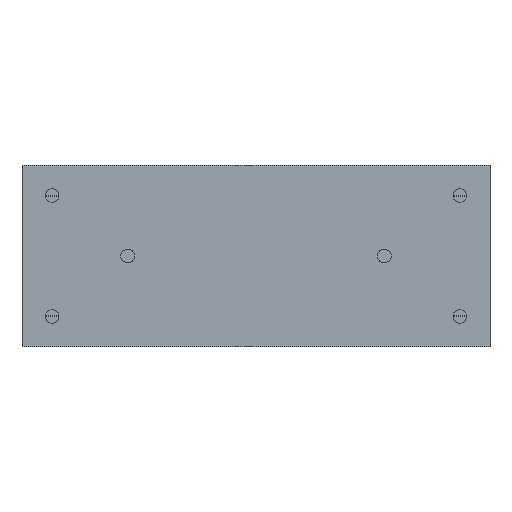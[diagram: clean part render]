
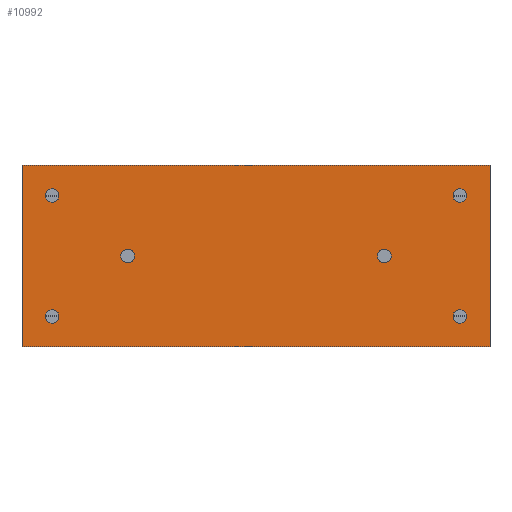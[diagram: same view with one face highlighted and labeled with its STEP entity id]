
A CAD part, front view. The second image highlights one B-rep face of the part: STEP entity #10992.
In plain terms, the highlighted planar face has unit normal (0, -1, 0).
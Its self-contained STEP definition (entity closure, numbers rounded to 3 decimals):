
#406=CIRCLE('',#11636,2.25);
#407=CIRCLE('',#11637,2.25);
#408=CIRCLE('',#11638,2.25);
#409=CIRCLE('',#11639,2.25);
#410=CIRCLE('',#11640,2.25);
#411=CIRCLE('',#11641,2.25);
#1148=ORIENTED_EDGE('',*,*,#4533,.F.);
#1149=ORIENTED_EDGE('',*,*,#4534,.F.);
#1150=ORIENTED_EDGE('',*,*,#4535,.T.);
#1151=ORIENTED_EDGE('',*,*,#4536,.F.);
#1152=ORIENTED_EDGE('',*,*,#4537,.F.);
#1153=ORIENTED_EDGE('',*,*,#4538,.F.);
#1154=ORIENTED_EDGE('',*,*,#4486,.T.);
#1155=ORIENTED_EDGE('',*,*,#4539,.F.);
#1156=ORIENTED_EDGE('',*,*,#4540,.F.);
#1157=ORIENTED_EDGE('',*,*,#4531,.T.);
#4486=EDGE_CURVE('',#6185,#6184,#7328,.T.);
#4531=EDGE_CURVE('',#6220,#6185,#7371,.T.);
#4533=EDGE_CURVE('',#6221,#6221,#406,.T.);
#4534=EDGE_CURVE('',#6222,#6222,#407,.T.);
#4535=EDGE_CURVE('',#6223,#6223,#408,.T.);
#4536=EDGE_CURVE('',#6224,#6224,#409,.T.);
#4537=EDGE_CURVE('',#6225,#6225,#410,.T.);
#4538=EDGE_CURVE('',#6226,#6226,#411,.T.);
#4539=EDGE_CURVE('',#6227,#6184,#7373,.T.);
#4540=EDGE_CURVE('',#6220,#6227,#7374,.T.);
#6184=VERTEX_POINT('',#16570);
#6185=VERTEX_POINT('',#16572);
#6220=VERTEX_POINT('',#16659);
#6221=VERTEX_POINT('',#16663);
#6222=VERTEX_POINT('',#16665);
#6223=VERTEX_POINT('',#16667);
#6224=VERTEX_POINT('',#16669);
#6225=VERTEX_POINT('',#16671);
#6226=VERTEX_POINT('',#16673);
#6227=VERTEX_POINT('',#16675);
#7328=LINE('',#16571,#8328);
#7371=LINE('',#16658,#8371);
#7373=LINE('',#16674,#8373);
#7374=LINE('',#16676,#8374);
#8328=VECTOR('',#12955,1000.);
#8371=VECTOR('',#13016,1000.);
#8373=VECTOR('',#13032,1000.);
#8374=VECTOR('',#13033,1000.);
#9313=EDGE_LOOP('',(#1148));
#9314=EDGE_LOOP('',(#1149));
#9315=EDGE_LOOP('',(#1150));
#9316=EDGE_LOOP('',(#1151));
#9317=EDGE_LOOP('',(#1152));
#9318=EDGE_LOOP('',(#1153));
#9319=EDGE_LOOP('',(#1154,#1155,#1156,#1157));
#10013=FACE_BOUND('',#9313,.T.);
#10014=FACE_BOUND('',#9314,.T.);
#10015=FACE_BOUND('',#9315,.T.);
#10016=FACE_BOUND('',#9316,.T.);
#10017=FACE_BOUND('',#9317,.T.);
#10018=FACE_BOUND('',#9318,.T.);
#10019=FACE_BOUND('',#9319,.T.);
#10711=PLANE('',#11635);
#10992=ADVANCED_FACE('',(#10013,#10014,#10015,#10016,#10017,#10018,#10019),
#10711,.F.);
#11635=AXIS2_PLACEMENT_3D('',#16661,#13018,#13019);
#11636=AXIS2_PLACEMENT_3D('',#16662,#13020,#13021);
#11637=AXIS2_PLACEMENT_3D('',#16664,#13022,#13023);
#11638=AXIS2_PLACEMENT_3D('',#16666,#13024,#13025);
#11639=AXIS2_PLACEMENT_3D('',#16668,#13026,#13027);
#11640=AXIS2_PLACEMENT_3D('',#16670,#13028,#13029);
#11641=AXIS2_PLACEMENT_3D('',#16672,#13030,#13031);
#12955=DIRECTION('',(0.,0.,-1.));
#13016=DIRECTION('',(-1.,0.,0.));
#13018=DIRECTION('',(0.,1.,0.));
#13019=DIRECTION('',(0.,0.,1.));
#13020=DIRECTION('',(0.,-1.,0.));
#13021=DIRECTION('',(0.,0.,-1.));
#13022=DIRECTION('',(0.,-1.,0.));
#13023=DIRECTION('',(0.,0.,-1.));
#13024=DIRECTION('',(0.,1.,0.));
#13025=DIRECTION('',(0.,0.,1.));
#13026=DIRECTION('',(0.,-1.,0.));
#13027=DIRECTION('',(0.,0.,-1.));
#13028=DIRECTION('',(0.,-1.,0.));
#13029=DIRECTION('',(0.,0.,-1.));
#13030=DIRECTION('',(0.,-1.,0.));
#13031=DIRECTION('',(0.,0.,-1.));
#13032=DIRECTION('',(-1.,0.,0.));
#13033=DIRECTION('',(0.,0.,-1.));
#16570=CARTESIAN_POINT('',(0.,0.,-30.));
#16571=CARTESIAN_POINT('',(0.,0.,30.));
#16572=CARTESIAN_POINT('',(0.,0.,30.));
#16658=CARTESIAN_POINT('',(155.,0.,30.));
#16659=CARTESIAN_POINT('',(155.,0.,30.));
#16661=CARTESIAN_POINT('',(155.,0.,30.));
#16662=CARTESIAN_POINT('',(120.,0.,0.));
#16663=CARTESIAN_POINT('',(120.,0.,-2.25));
#16664=CARTESIAN_POINT('',(35.,0.,0.));
#16665=CARTESIAN_POINT('',(35.,0.,-2.25));
#16666=CARTESIAN_POINT('',(145.,0.,20.));
#16667=CARTESIAN_POINT('',(145.,0.,22.25));
#16668=CARTESIAN_POINT('',(145.,0.,-20.));
#16669=CARTESIAN_POINT('',(145.,0.,-22.25));
#16670=CARTESIAN_POINT('',(10.,0.,-20.));
#16671=CARTESIAN_POINT('',(10.,0.,-22.25));
#16672=CARTESIAN_POINT('',(10.,0.,20.));
#16673=CARTESIAN_POINT('',(10.,0.,17.75));
#16674=CARTESIAN_POINT('',(155.,0.,-30.));
#16675=CARTESIAN_POINT('',(155.,0.,-30.));
#16676=CARTESIAN_POINT('',(155.,0.,30.));
